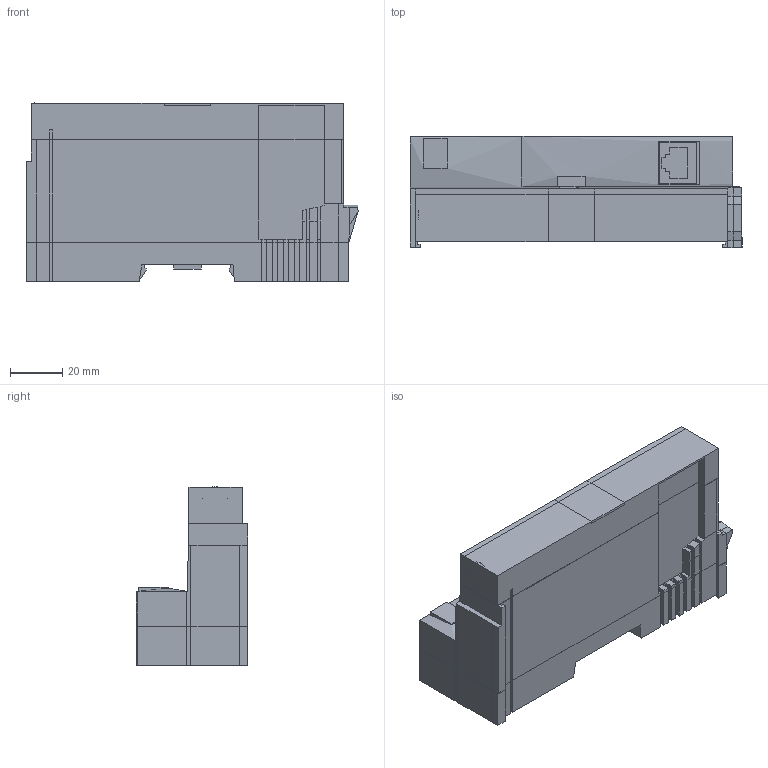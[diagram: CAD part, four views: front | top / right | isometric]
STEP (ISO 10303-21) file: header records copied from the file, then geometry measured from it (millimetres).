
FILE_DESCRIPTION(/* description */ (''),/* implementation_level */ '2;1');
FILE_NAME(/* name */ 'STB_NIP2212_poly',/* time_stamp */ '2009-05-22T12:33:02+02:00',/* author */ (''),/* organization */ (''),/* preprocessor_version */ 'ST-DEVELOPER v8',/* originating_system */ '',/* authorisation */ '');
FILE_SCHEMA (('AUTOMOTIVE_DESIGN'));
Length unit declared in the file: millimetre
Products named in the file (1): 1
Bounding box: 127.55 x 42.82 x 68.69 mm (x, y, z)
Volume: 100090.3 mm3; surface area: 49644.4 mm2
Topology: 3 solids, 4 shells, 253 faces, 750 edges, 492 vertices
Faces by surface type: bspline 253
Entity records: 8779 total; most frequent: CARTESIAN_POINT 4418, ORIENTED_EDGE 1391, EDGE_CURVE 700, B_SPLINE_CURVE_WITH_KNOTS 660, VERTEX_POINT 458, EDGE_LOOP 260, ADVANCED_FACE 253, FACE_OUTER_BOUND 253
